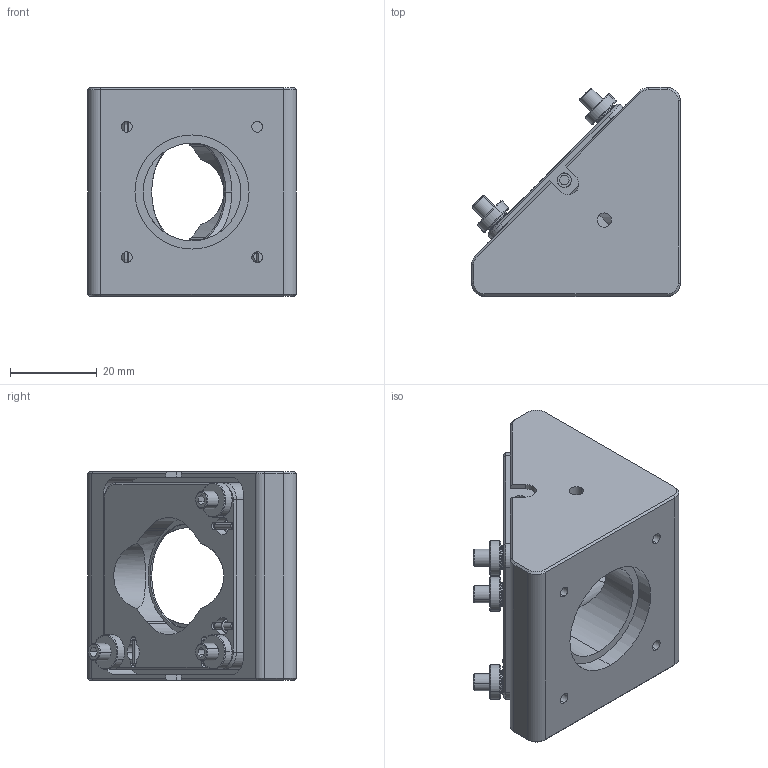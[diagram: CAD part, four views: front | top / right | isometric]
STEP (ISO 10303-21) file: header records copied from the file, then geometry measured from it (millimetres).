
FILE_DESCRIPTION (( 'STEP AP203' ), '1' );
FILE_NAME ('NRM25.4.STEP', '2020-04-14T05:56:39', ( '' ), ( '' ), 'SwSTEP 2.0', 'SolidWorks 2016', '' );
FILE_SCHEMA (( 'CONFIG_CONTROL_DESIGN' ));
Length unit declared in the file: millimetre
Products named in the file (1): NRM25.4
Bounding box: 48 x 48 x 48 mm (x, y, z)
Surface area: 19227.6 mm2 (no closed solid volume)
Topology: 0 solids, 30 shells, 284 faces, 844 edges, 561 vertices
Faces by surface type: cylinder 109, plane 95, cone 64, bspline 16
Entity records: 19775 total; most frequent: CARTESIAN_POINT 12114, DIRECTION 1663, ORIENTED_EDGE 1429, EDGE_CURVE 844, AXIS2_PLACEMENT_3D 624, VERTEX_POINT 561, VECTOR 415, LINE 415
